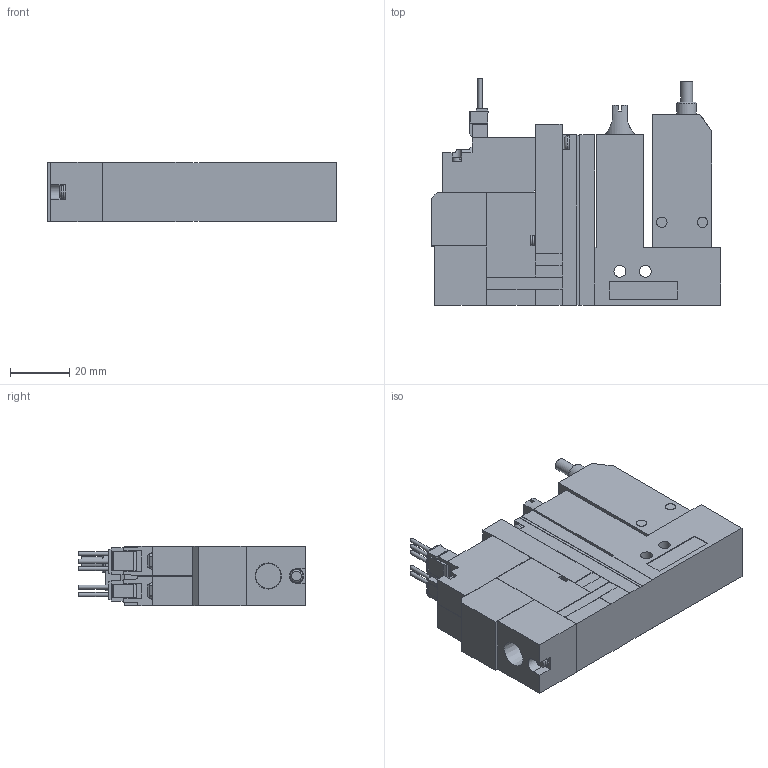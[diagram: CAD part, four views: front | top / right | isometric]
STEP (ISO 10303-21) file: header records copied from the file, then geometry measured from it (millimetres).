
FILE_DESCRIPTION(('STEP AP203'),'1');
FILE_NAME('ABS_ABPLC5WLR.stp','2025-02-17T00:15:46',(' '),(' '),'Spatial InterOp 3D',' ',' ');
FILE_SCHEMA(('CONFIG_CONTROL_DESIGN'));
Length unit declared in the file: millimetre
Products named in the file (5): BMC22S※※※※ABS_ABPLC5WLR; Solenoid valve W; Pressure sensor ABSLC; Unit LC; Base SR10R
Assembly tree (4 placements, depth 2):
  BMC22S※※※※ABS_ABPLC5WLR
    Solenoid valve W
    Pressure sensor ABSLC
    Unit LC
    Base SR10R
Bounding box: 97.6 x 76.45 x 20 mm (x, y, z)
Volume: 102332 mm3; surface area: 26560.6 mm2
Topology: 4 solids, 4 shells, 395 faces, 1048 edges, 689 vertices
Faces by surface type: plane 340, cylinder 43, torus 6, cone 6
Full cylindrical faces by diameter (mm): 1.4 x5, 2.5 x1, 3 x4, 3.5 x6, 3.6 x1, 4 x3, 4.134 x1, 6 x1, 6.5 x1
Entity records: 12214 total; most frequent: CARTESIAN_POINT 2233, ORIENTED_EDGE 2006, DIRECTION 1926, EDGE_CURVE 1003, LINE 868, VECTOR 868, VERTEX_POINT 680, AXIS2_PLACEMENT_3D 529
